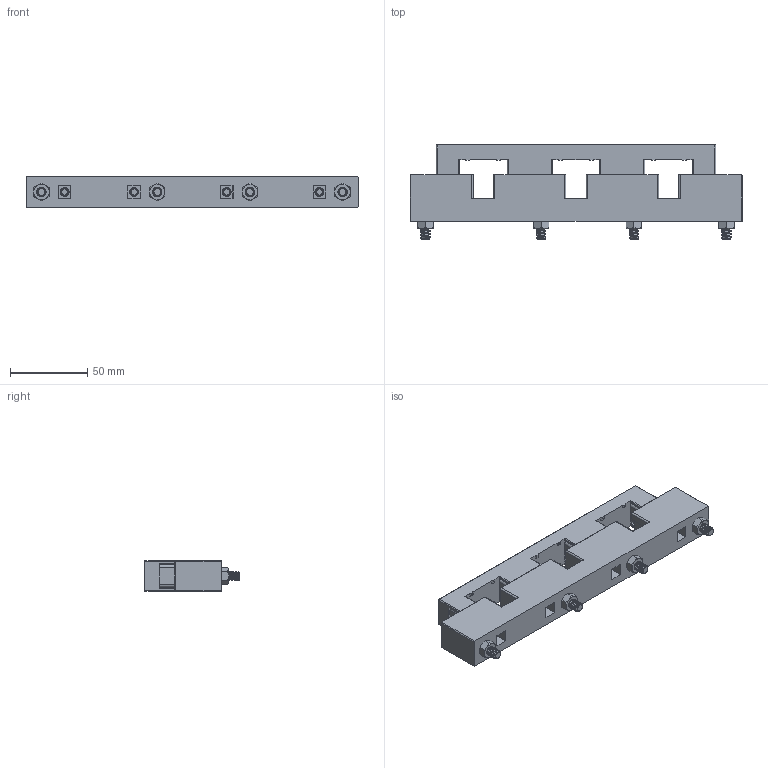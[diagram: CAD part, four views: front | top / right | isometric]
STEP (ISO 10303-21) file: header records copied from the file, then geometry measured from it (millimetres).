
FILE_DESCRIPTION (( 'STEP AP214' ), '1' );
FILE_NAME ('52010.STEP', '2021-08-11T05:34:06', ( '' ), ( '' ), 'SwSTEP 2.0', 'SolidWorks 2017', '' );
FILE_SCHEMA (( 'AUTOMOTIVE_DESIGN' ));
Length unit declared in the file: millimetre
Products named in the file (2): 52010
Bounding box: 215 x 61.95 x 20 mm (x, y, z)
Volume: 143593.3 mm3; surface area: 77927.1 mm2
Topology: 18 solids, 36 shells, 2026 faces, 5476 edges, 3616 vertices
Faces by surface type: plane 1238, cylinder 614, cone 92, bspline 64, torus 18
Full cylindrical faces by diameter (mm): 4.2 x4, 5 x8, 5.3 x4, 5.5 x4, 6 x108, 6.5 x12, 7.002 x4, 10 x8, 10.5 x2, 11 x2, 12 x2, 13 x4
Entity records: 95531 total; most frequent: CARTESIAN_POINT 27854, ORIENTED_EDGE 10000, DIRECTION 8947, EDGE_CURVE 5000, VERTEX_POINT 3382, VECTOR 3105, LINE 3105, AXIS2_PLACEMENT_3D 2921
